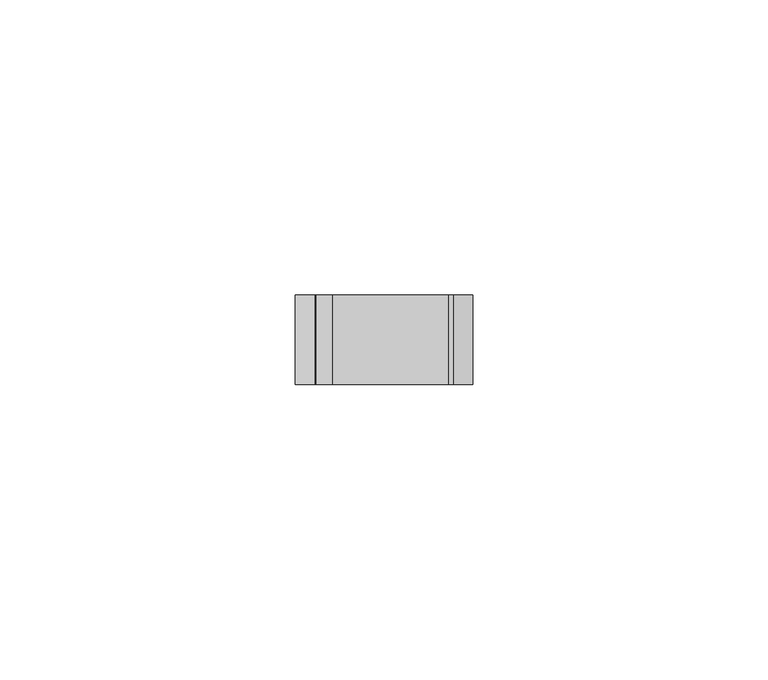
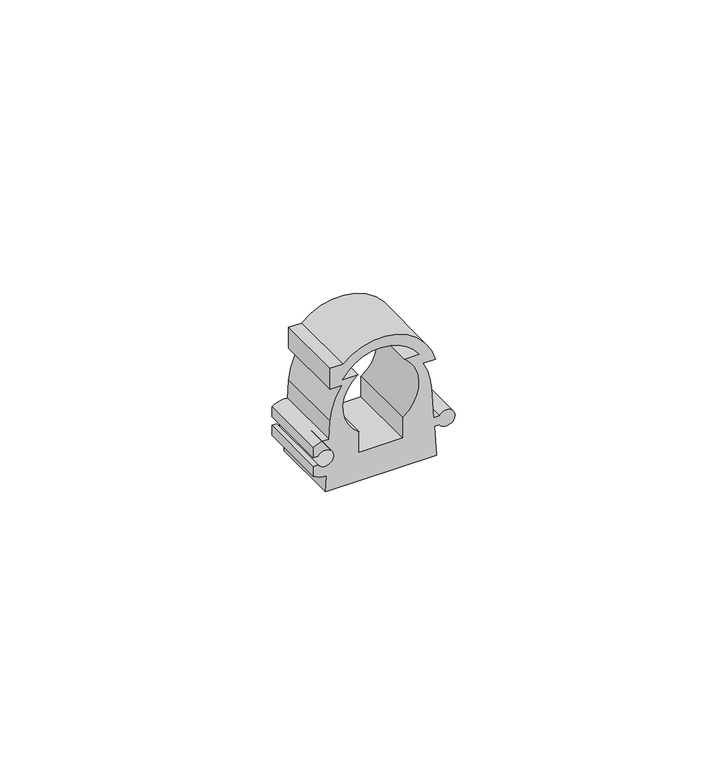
"""IFC4 building model written with IfcOpenShell, lengths in millimetres: valve geometry, Astra - Abraçadeira Plástica com Fechamento - AP : Astra - Abraçadeira Plástica com Fechamento - AP."""

from ifc_helpers import new_model, si_unit, point, frame, frame_2d, origin, place, context, project, spatial, polyline, circle_curve, trimmed, segment, composite_curve, outline, extrude, source, transform, mapped, element, save


def valve_774353ad(model_context):
    return source(origin(), model_context, "Body", "SweptSolid", [
        extrude(outline(composite_curve([segment(polyline([(0.0, -11.7735), (0.0, 11.7735), (6.6, 11.3516105), (6.6, 12.455337)]), True, "CONTINUOUS"), segment(trimmed(circle_curve(frame_2d((7.6, 13.952)), 1.8), [point((6.6, 12.455337))], [point((8.6, 12.455337))], False, "CARTESIAN"), True, "CONTINUOUS"), segment(polyline([(8.6, 12.455337), (8.6, 11.2237651), (15.464, 10.785)]), True, "CONTINUOUS"), segment(trimmed(circle_curve(frame_2d((14.571016, -3.1864917)), 14.0), [point((15.464, 10.785))], [point((21.599, 8.9216643))], False, "CARTESIAN"), True, "CONTINUOUS"), segment(polyline([(21.599, 8.9216643), (21.599, 11.6113034)]), True, "CONTINUOUS"), segment(trimmed(circle_curve(frame_2d((18.5248497, 0.0345127)), 11.978), [point((21.599, 11.6113034))], [point((27.341, -8.074))], False, "CARTESIAN"), True, "CONTINUOUS"), segment(polyline([(27.341, -8.074), (27.341, -10.785), (22.645, -10.785), (22.645, -8.2507624)]), True, "CONTINUOUS"), segment(trimmed(circle_curve(frame_2d((14.571016, 3.1864917)), 14.0), [point((22.645, -8.2507624))], [point((15.464, -10.785))], False, "CARTESIAN"), True, "CONTINUOUS"), segment(polyline([(15.464, -10.785), (11.5358948, -11.0360949)]), True, "CONTINUOUS"), segment(trimmed(circle_curve(frame_2d((7.6, -11.859)), 4.021), [point((11.5358948, -11.0360949))], [point((10.7564791, -14.35))], False, "CARTESIAN"), True, "CONTINUOUS"), segment(polyline([(10.7564791, -14.35), (8.6, -14.35), (8.6, -13.355663)]), True, "CONTINUOUS"), segment(trimmed(circle_curve(frame_2d((7.6, -11.859)), 1.8), [point((8.6, -13.355663))], [point((6.6, -13.355663))], True, "CARTESIAN"), True, "CONTINUOUS"), segment(polyline([(6.6, -13.355663), (6.6, -14.35), (4.4435209, -14.35)]), True, "CONTINUOUS"), segment(trimmed(circle_curve(frame_2d((7.6, -11.859)), 4.021), [point((4.4435209, -14.35))], [point((3.5913628, -11.5439305))], False, "CARTESIAN"), True, "CONTINUOUS"), segment(polyline([(3.5913628, -11.5439305), (0.0, -11.7735)]), True, "CONTINUOUS")], self_intersect=False), holes=[composite_curve([segment(trimmed(circle_curve(frame_2d((18.486, 0.0)), 9.747), [point((23.878, -8.1197503))], [point((23.878, 8.1197503))], True, "CARTESIAN"), True, "CONTINUOUS"), segment(polyline([(23.878, 8.1197503), (23.878, 5.0087853)]), True, "CONTINUOUS"), segment(trimmed(circle_curve(frame_2d((17.5724592, 0.0)), 8.0528116), [point((23.878, 5.0087853))], [point((10.975, 4.6175))], True, "CARTESIAN"), True, "CONTINUOUS"), segment(polyline([(10.975, 4.6175), (6.417, 4.6175), (6.417, -4.6175), (10.9751068, -4.6175)]), True, "CONTINUOUS"), segment(trimmed(circle_curve(frame_2d((17.508, 0.0)), 8.0), [point((10.9751068, -4.6175))], [point((23.878, -4.8397417))], True, "CARTESIAN"), True, "CONTINUOUS"), segment(polyline([(23.878, -4.8397417), (23.878, -8.1197503)]), True, "CONTINUOUS")], self_intersect=False)]), frame((0.0, -7.6, 0.0), z_axis=(0.0, 1.0, 0.0), x_axis=(0.0, 0.0, 1.0)), (0.0, 0.0, 1.0), 15.2),
    ])


if __name__ == "__main__":
    model = new_model("IFC4")
    model_context = context("Model", 3, world=origin())
    ifc_project = project(units=[si_unit("LENGTHUNIT", "METRE", prefix="MILLI")], contexts=[model_context])
    site = spatial("IfcSite", under=ifc_project)
    building = spatial("IfcBuilding", under=site)
    placement = place(None, origin())
    valve_shape = valve_774353ad(model_context)
    element("IfcValve", 1, ObjectType="Astra - Abraçadeira Plástica com Fechamento - AP : Astra - Abraçadeira Plástica com Fechamento - AP", at=placement, inside=building, context=model_context, shape_type="MappedRepresentation", body=[
        mapped(valve_shape, transform((0.0, 0.0, 0.0), x_axis=(1.0, 0.0, 0.0), y_axis=(0.0, 1.0, 0.0), z_axis=(0.0, 0.0, 1.0))),
    ])
    save(model, "model.ifc")
